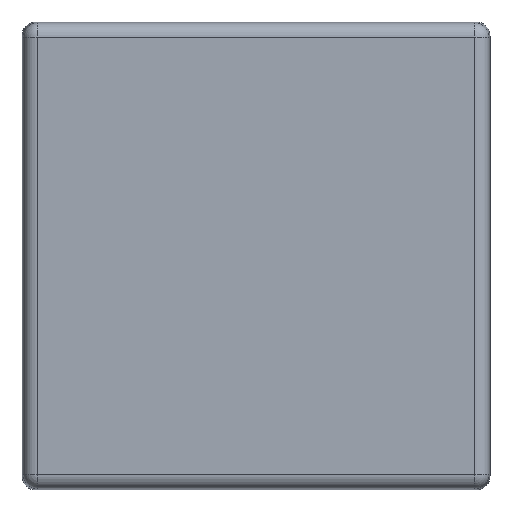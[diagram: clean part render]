
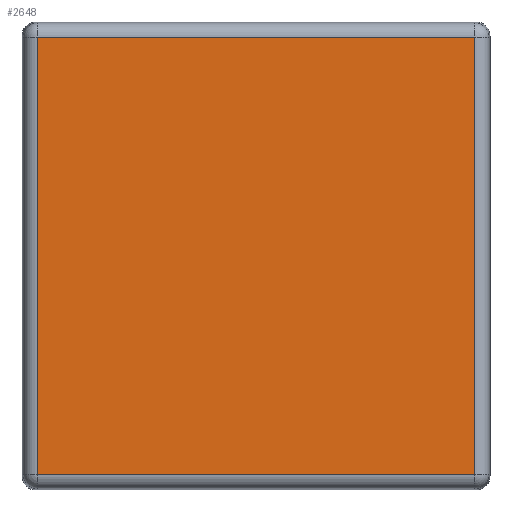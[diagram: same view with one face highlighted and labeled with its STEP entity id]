
A CAD part, top view. The second image highlights one B-rep face of the part: STEP entity #2648.
In plain terms, the highlighted planar face has unit normal (0, 0, 1).
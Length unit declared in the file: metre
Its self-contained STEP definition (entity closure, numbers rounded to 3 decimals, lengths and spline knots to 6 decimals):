
#180=FACE_OUTER_BOUND('',#352,.T.);
#352=EDGE_LOOP('',(#1865,#1866,#1867,#1868));
#667=LINE('',#4127,#935);
#668=LINE('',#4129,#936);
#669=LINE('',#4131,#937);
#670=LINE('',#4132,#938);
#935=VECTOR('',#3222,0.046754);
#936=VECTOR('',#3223,0.046754);
#937=VECTOR('',#3224,0.046754);
#938=VECTOR('',#3225,0.046754);
#1209=VERTEX_POINT('',#4125);
#1210=VERTEX_POINT('',#4126);
#1211=VERTEX_POINT('',#4128);
#1212=VERTEX_POINT('',#4130);
#1463=EDGE_CURVE('',#1209,#1210,#667,.F.);
#1464=EDGE_CURVE('',#1210,#1211,#668,.F.);
#1465=EDGE_CURVE('',#1211,#1212,#669,.F.);
#1466=EDGE_CURVE('',#1212,#1209,#670,.F.);
#1865=ORIENTED_EDGE('',*,*,#1463,.T.);
#1866=ORIENTED_EDGE('',*,*,#1464,.T.);
#1867=ORIENTED_EDGE('',*,*,#1465,.T.);
#1868=ORIENTED_EDGE('',*,*,#1466,.T.);
#2563=PLANE('',#2830);
#2648=ADVANCED_FACE('',(#180),#2563,.T.);
#2830=AXIS2_PLACEMENT_3D('',#4124,#3220,#3221);
#3220=DIRECTION('center_axis',(0.,0.,1.));
#3221=DIRECTION('ref_axis',(1.,0.,0.));
#3222=DIRECTION('',(0.,-1.,0.));
#3223=DIRECTION('',(1.,0.,0.));
#3224=DIRECTION('',(0.,1.,0.));
#3225=DIRECTION('',(-1.,0.,0.));
#4124=CARTESIAN_POINT('Origin',(0.,0.,0.005));
#4125=CARTESIAN_POINT('',(0.023377,-0.023377,0.005));
#4126=CARTESIAN_POINT('',(0.023377,0.023377,0.005));
#4127=CARTESIAN_POINT('',(0.023377,0.023377,0.005));
#4128=CARTESIAN_POINT('',(-0.023377,0.023377,0.005));
#4129=CARTESIAN_POINT('',(-0.023377,0.023377,0.005));
#4130=CARTESIAN_POINT('',(-0.023377,-0.023377,0.005));
#4131=CARTESIAN_POINT('',(-0.023377,-0.023377,0.005));
#4132=CARTESIAN_POINT('',(0.023377,-0.023377,0.005));
